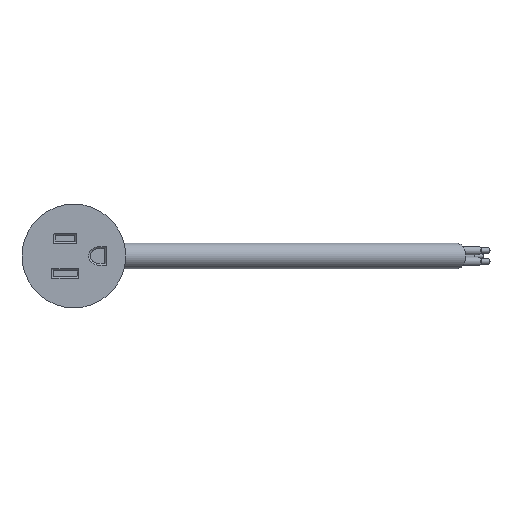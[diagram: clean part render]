
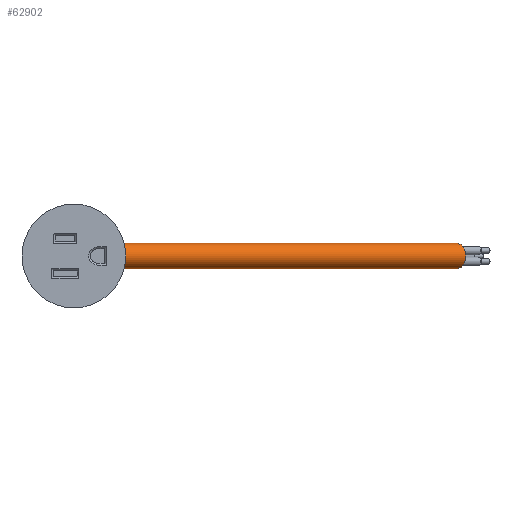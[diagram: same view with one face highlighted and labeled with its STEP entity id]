
A CAD part, front view. The second image highlights one B-rep face of the part: STEP entity #62902.
In plain terms, the highlighted cylindrical face has radius 4.65 mm (diameter 9.3 mm), a partial arc.
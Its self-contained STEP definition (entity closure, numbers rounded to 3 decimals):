
#62127=CARTESIAN_POINT('',(-100.,0.,0.));
#62128=DIRECTION('',(1.,0.,0.));
#62129=DIRECTION('',(0.,0.,1.));
#62130=AXIS2_PLACEMENT_3D('',#62127,#62128,#62129);
#62183=DIRECTION('',(1.,0.,0.));
#62184=VECTOR('',#62183,200.);
#62185=CARTESIAN_POINT('',(-100.,0.,-4.65));
#62186=LINE('',#62185,#62184);
#62190=DIRECTION('',(1.,0.,0.));
#62191=VECTOR('',#62190,200.);
#62192=CARTESIAN_POINT('',(-100.,0.,4.65));
#62193=LINE('',#62192,#62191);
#62205=CARTESIAN_POINT('',(100.,0.,0.));
#62206=DIRECTION('',(1.,0.,0.));
#62207=DIRECTION('',(0.,0.,1.));
#62208=AXIS2_PLACEMENT_3D('',#62205,#62206,#62207);
#62717=CARTESIAN_POINT('',(-100.,0.,-4.65));
#62718=CARTESIAN_POINT('',(-100.,0.,4.65));
#62719=VERTEX_POINT('',#62717);
#62720=VERTEX_POINT('',#62718);
#62721=CARTESIAN_POINT('',(100.,0.,-4.65));
#62722=CARTESIAN_POINT('',(100.,0.,4.65));
#62723=VERTEX_POINT('',#62721);
#62724=VERTEX_POINT('',#62722);
#62890=CARTESIAN_POINT('',(-100.,0.,0.));
#62891=DIRECTION('',(1.,0.,0.));
#62892=DIRECTION('',(0.,0.,-1.));
#62893=AXIS2_PLACEMENT_3D('',#62890,#62891,#62892);
#62894=CYLINDRICAL_SURFACE('',#62893,4.65);
#62895=ORIENTED_EDGE('',*,*,#62828,.F.);
#62896=ORIENTED_EDGE('',*,*,#62873,.T.);
#62898=ORIENTED_EDGE('',*,*,#62897,.T.);
#62899=ORIENTED_EDGE('',*,*,#62869,.F.);
#62900=EDGE_LOOP('',(#62895,#62896,#62898,#62899));
#62901=FACE_OUTER_BOUND('',#62900,.F.);
#62131=CIRCLE('',#62130,4.65);
#62209=CIRCLE('',#62208,4.65);
#62828=EDGE_CURVE('',#62720,#62719,#62131,.T.);
#62869=EDGE_CURVE('',#62719,#62723,#62186,.T.);
#62873=EDGE_CURVE('',#62720,#62724,#62193,.T.);
#62897=EDGE_CURVE('',#62724,#62723,#62209,.T.);
#62902=ADVANCED_FACE('',(#62901),#62894,.T.);
